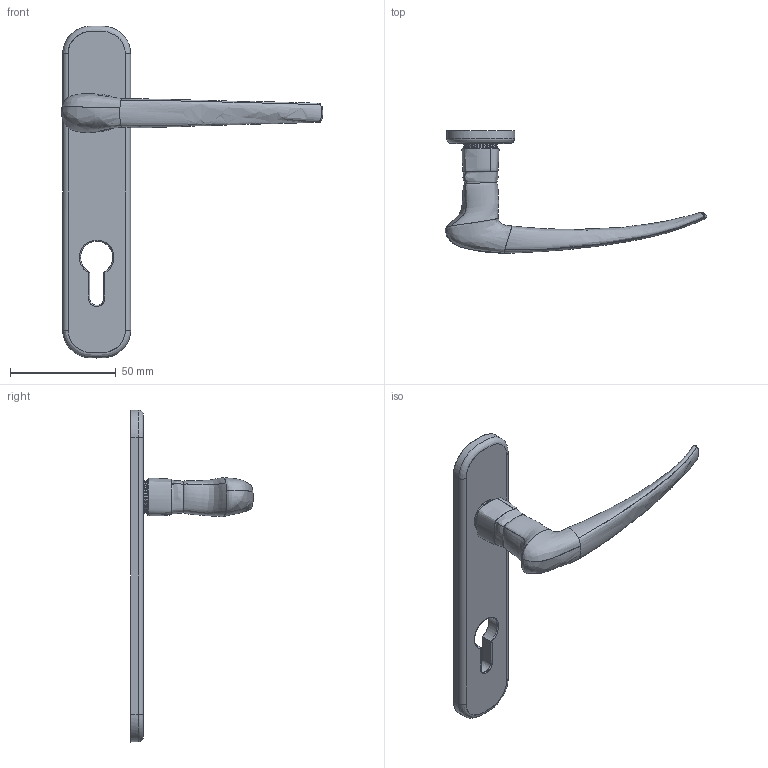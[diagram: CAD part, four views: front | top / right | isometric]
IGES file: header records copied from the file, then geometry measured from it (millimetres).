
Start section: SolidWorks IGES file using analytic representation for surfaces
Global section: file name: C:\Users\Zeljko\Desktop\door_handle.IGS; native system: SolidWorks 2011; preprocessor: SolidWorks 2011; author: Zeljko; date: 120123.201740; units: centimetre
Bounding box: 123.73 x 58 x 157.06 mm (x, y, z)
Surface area: 18325.7 mm2 (no closed solid volume)
Topology: 0 solids, 0 shells, 46 faces, 575 edges, 573 vertices
Faces by surface type: bspline 31, revolution 15
